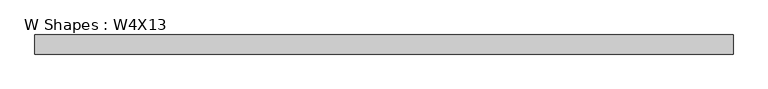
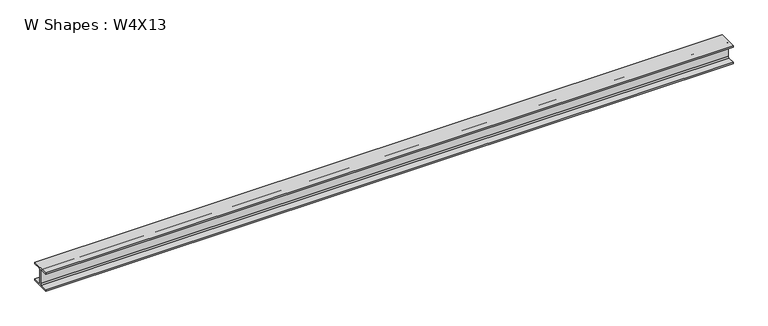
"""IFC4 building model written with IfcOpenShell, lengths in millimetres: beam geometry, W Shapes : W4X13."""

from ifc_helpers import new_model, si_unit, point, frame, frame_2d, origin, place, context, project, spatial, polyline, circle_curve, trimmed, segment, composite_curve, outline, extrude, source, transform, mapped, element, save


def w_shapes_w4x13_89d5f31c(model_context):
    return source(origin(), model_context, "Body", "SweptSolid", [
        extrude(outline(composite_curve([segment(polyline([(51.562, -44.069), (51.562, -52.832), (-51.562, -52.832), (-51.562, -44.069), (-9.906, -44.069)]), True, "CONTINUOUS"), segment(trimmed(circle_curve(frame_2d((-9.906, -37.719)), 6.35), [point((-9.906, -44.069))], [point((-3.556, -37.719))], True, "CARTESIAN"), True, "CONTINUOUS"), segment(polyline([(-3.556, -37.719), (-3.556, 37.719)]), True, "CONTINUOUS"), segment(trimmed(circle_curve(frame_2d((-9.906, 37.719)), 6.35), [point((-3.556, 37.719))], [point((-9.906, 44.069))], True, "CARTESIAN"), True, "CONTINUOUS"), segment(polyline([(-9.906, 44.069), (-51.562, 44.069), (-51.562, 52.832), (51.562, 52.832), (51.562, 44.069), (9.906, 44.069)]), True, "CONTINUOUS"), segment(trimmed(circle_curve(frame_2d((9.906, 37.719)), 6.35), [point((9.906, 44.069))], [point((3.556, 37.719))], True, "CARTESIAN"), True, "CONTINUOUS"), segment(polyline([(3.556, 37.719), (3.556, -37.719)]), True, "CONTINUOUS"), segment(trimmed(circle_curve(frame_2d((9.906, -37.719)), 6.35), [point((3.556, -37.719))], [point((9.906, -44.069))], True, "CARTESIAN"), True, "CONTINUOUS"), segment(polyline([(9.906, -44.069), (51.562, -44.069)]), True, "CONTINUOUS")], self_intersect=False)), frame((-1885.573, 0.0, 0.0), z_axis=(1.0, 0.0, 0.0), x_axis=(0.0, 1.0, 0.0)), (0.0, 0.0, 1.0), 3771.146),
    ])


if __name__ == "__main__":
    model = new_model("IFC4")
    model_context = context("Model", 3, world=origin())
    ifc_project = project(units=[si_unit("LENGTHUNIT", "METRE", prefix="MILLI")], contexts=[model_context])
    site = spatial("IfcSite", under=ifc_project)
    building = spatial("IfcBuilding", under=site)
    placement = place(None, origin())
    w_shapes_w4x13_shape = w_shapes_w4x13_89d5f31c(model_context)
    element("IfcBeam", 1, ObjectType="W Shapes : W4X13", at=placement, inside=building, context=model_context, shape_type="MappedRepresentation", body=[
        mapped(w_shapes_w4x13_shape, transform((0.0, 0.0, 0.0), x_axis=(1.0, 0.0, 0.0), y_axis=(0.0, 1.0, 0.0), z_axis=(0.0, 0.0, 1.0))),
    ])
    save(model, "model.ifc")
